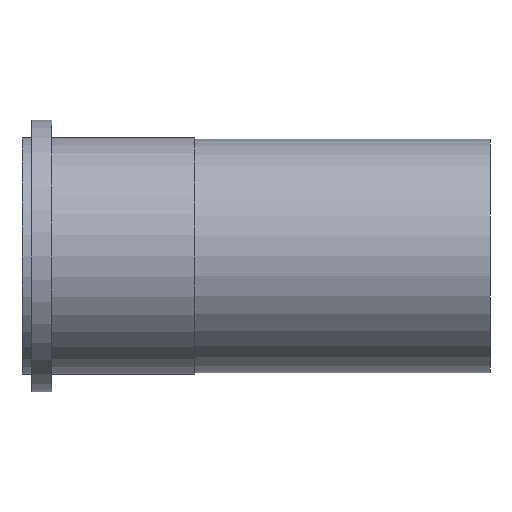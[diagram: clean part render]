
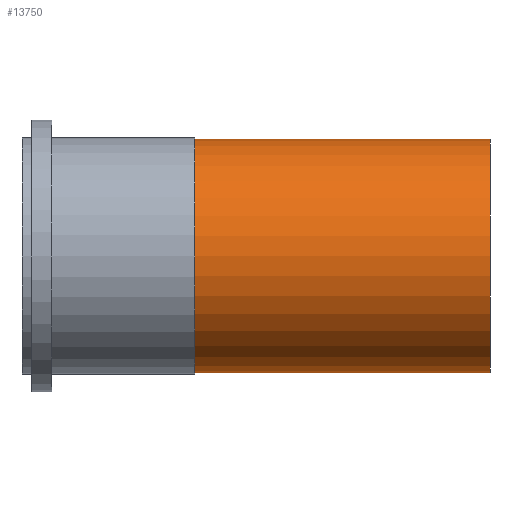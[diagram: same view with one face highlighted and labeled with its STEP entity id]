
A CAD part, front view. The second image highlights one B-rep face of the part: STEP entity #13750.
In plain terms, the highlighted cylindrical face has radius 37.465 mm (diameter 74.93 mm), a full revolution.
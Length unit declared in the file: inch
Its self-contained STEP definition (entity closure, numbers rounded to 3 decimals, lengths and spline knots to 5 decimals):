
#13719=CARTESIAN_POINT('',(2.18,1.475,0.0));
#13720=VERTEX_POINT('',#13719);
#13721=CARTESIAN_POINT('',(2.18,0.0,0.0));
#13722=DIRECTION('',(1.0,0.0,0.0));
#13723=DIRECTION('',(0.0,1.0,0.0));
#13724=AXIS2_PLACEMENT_3D('',#13721,#13722,#13723);
#13725=CIRCLE('',#13724,1.475);
#13726=EDGE_CURVE('',#13720,#13720,#13725,.T.);
#13731=CARTESIAN_POINT('',(4.04276,0.0,0.0));
#13732=DIRECTION('',(1.0,0.0,0.0));
#13733=DIRECTION('',(0.0,1.0,0.0));
#13734=AXIS2_PLACEMENT_3D('',#13731,#13732,#13733);
#13735=CYLINDRICAL_SURFACE('',#13734,1.475);
#13736=CARTESIAN_POINT('',(5.90551,1.475,0.0));
#13737=VERTEX_POINT('',#13736);
#13738=CARTESIAN_POINT('',(5.90551,0.0,0.0));
#13739=DIRECTION('',(1.0,0.0,0.0));
#13740=DIRECTION('',(0.0,1.0,0.0));
#13741=AXIS2_PLACEMENT_3D('',#13738,#13739,#13740);
#13742=CIRCLE('',#13741,1.475);
#13743=EDGE_CURVE('',#13737,#13737,#13742,.T.);
#13744=ORIENTED_EDGE('',*,*,#13743,.F.);
#13745=EDGE_LOOP('',(#13744));
#13746=FACE_OUTER_BOUND('',#13745,.T.);
#13747=ORIENTED_EDGE('',*,*,#13726,.T.);
#13748=EDGE_LOOP('',(#13747));
#13749=FACE_BOUND('',#13748,.T.);
#13750=ADVANCED_FACE('',(#13746,#13749),#13735,.T.);
